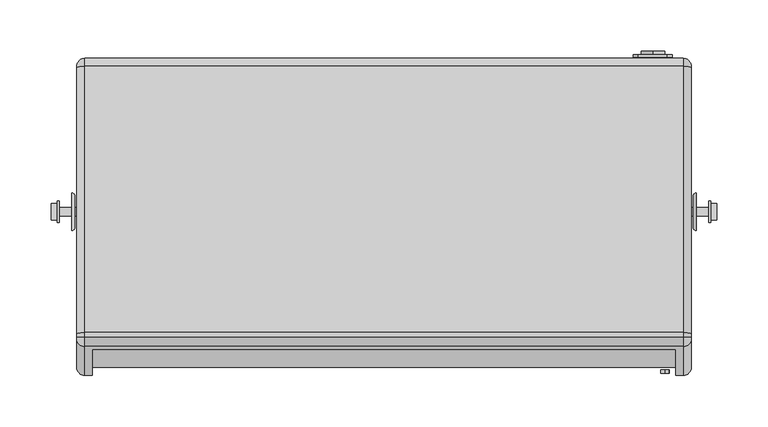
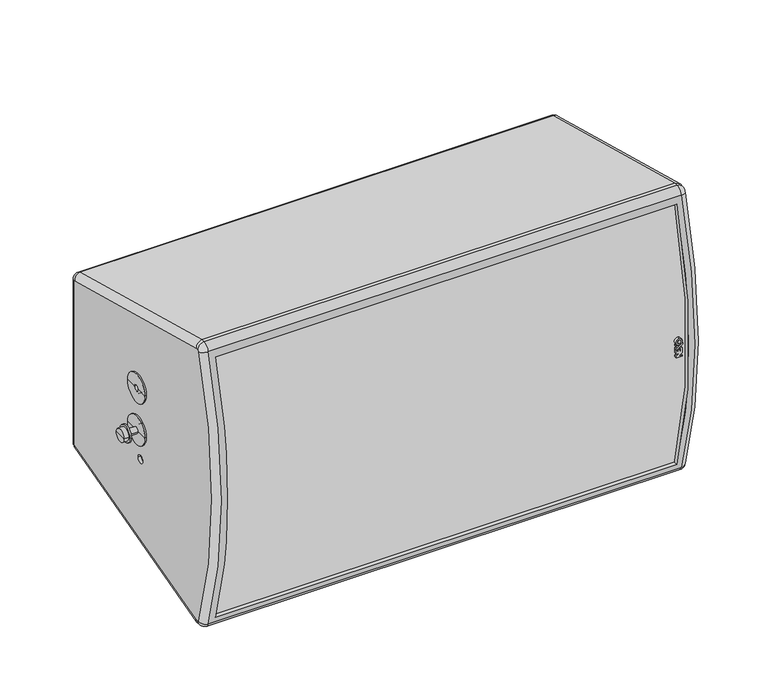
"""IFC4 building model written with IfcOpenShell, lengths in millimetres: proxy geometry, ePS12-HBRK600-CHM : ePS12-HBRK600-CHM."""

from ifc_helpers import new_model, si_unit, point, frame, frame_2d, origin, place, context, project, spatial, polyline, circle_curve, ellipse_curve, trimmed, segment, composite_curve, outline, extrude, source, transform, mapped, element, save
from ifc_brep_helpers import plane_surface, cylinder_surface, revolved_surface, advanced_brep


def generic_models_c9349fff(model_context):
    return source(origin(), model_context, "Body", "SolidModel", [
        extrude(outline(polyline([(-353.4376119, 270.5590531), (-353.4376119, 277.8388202), (-351.5452446, 277.8388202), (-351.5452446, 273.6734899), (-348.7701477, 277.8388202), (-341.919238, 277.8388202), (-340.6006657, 275.963849), (-341.6640428, 274.3643156), (-343.0335854, 276.2361557), (-346.0672147, 276.2361557), (-346.0672147, 274.9818684), (-343.7841019, 274.9818684), (-343.7841019, 273.3791381), (-346.0672147, 273.3791381), (-346.0672147, 272.1626349), (-343.66014, 272.1626349), (-343.66014, 271.3626349), (-344.1937988, 270.5599046), (-348.4621748, 270.5599046), (-348.4718664, 275.0099607), (-351.4111326, 270.5590531), (-353.4376119, 270.5590531)])), frame((0.0, -188.430519, 0.0), z_axis=(0.0, 1.0, 0.0), x_axis=(0.0, 0.0, 1.0)), (0.0, 0.0, 1.0), 3.5087945),
        extrude(outline(polyline([(-343.5524837, 270.5590531), (-338.0738645, 278.8), (-335.8806617, 278.8), (-341.3592809, 270.5590531), (-343.5524837, 270.5590531)])), frame((0.0, -188.430519, 0.0), z_axis=(0.0, 1.0, 0.0), x_axis=(0.0, 0.0, 1.0)), (0.0, 0.0, 1.0), 3.5087945),
        extrude(outline(polyline([(-336.8118496, 270.5590531), (-339.1386402, 270.5590531), (-339.8864345, 271.8270101), (-338.8022087, 273.457904), (-336.8118496, 270.5590531)])), frame((0.0, -188.430519, 0.0), z_axis=(0.0, 1.0, 0.0), x_axis=(0.0, 0.0, 1.0)), (0.0, 0.0, 1.0), 3.5087945),
        extrude(outline(composite_curve([segment(trimmed(circle_curve(frame_2d((-333.4262384, 274.2298911)), 3.9406238), [point((-337.3668623, 274.2298911))], [point((-329.4856146, 274.2298911))], False, "CARTESIAN"), True, "CONTINUOUS"), segment(trimmed(circle_curve(frame_2d((-333.4262384, 274.2298911)), 3.9406238), [point((-329.4856146, 274.2298911))], [point((-337.3668623, 274.2298911))], False, "CARTESIAN"), True, "CONTINUOUS")], self_intersect=False), holes=[composite_curve([segment(trimmed(circle_curve(frame_2d((-333.4262384, 274.2298911)), 2.0681078), [point((-335.4943462, 274.2298911))], [point((-331.3581307, 274.2298911))], True, "CARTESIAN"), True, "CONTINUOUS"), segment(trimmed(circle_curve(frame_2d((-333.4262384, 274.2298911)), 2.0681078), [point((-331.3581307, 274.2298911))], [point((-335.4943462, 274.2298911))], True, "CARTESIAN"), True, "CONTINUOUS")], self_intersect=False)]), frame((0.0, -188.430519, 0.0), z_axis=(0.0, 1.0, 0.0), x_axis=(0.0, 0.0, 1.0)), (0.0, 0.0, 1.0), 3.5087945),
        extrude(outline(composite_curve([segment(trimmed(circle_curve(frame_2d((-311.5012591, 262.5)), 11.4515227), [point((-300.0497365, 262.5))], [point((-322.9527818, 262.5))], False, "CARTESIAN"), True, "CONTINUOUS"), segment(trimmed(circle_curve(frame_2d((-311.5012591, 262.5)), 11.4515227), [point((-322.9527818, 262.5))], [point((-300.0497365, 262.5))], False, "CARTESIAN"), True, "CONTINUOUS")], self_intersect=False), holes=[composite_curve([segment(trimmed(circle_curve(frame_2d((-311.5012591, 262.5)), 5.0), [point((-306.5012591, 262.5))], [point((-316.5012591, 262.5))], True, "CARTESIAN"), True, "CONTINUOUS"), segment(trimmed(circle_curve(frame_2d((-311.5012591, 262.5)), 5.0), [point((-316.5012591, 262.5))], [point((-306.5012591, 262.5))], True, "CARTESIAN"), True, "CONTINUOUS")], self_intersect=False)]), frame((0.0, 123.0947354, 0.0), z_axis=(0.0, 1.0, 0.0), x_axis=(0.0, 0.0, 1.0)), (0.0, 0.0, 1.0), 3.4052646),
        extrude(outline(composite_curve([segment(trimmed(circle_curve(frame_2d((-371.5012591, 262.5)), 11.4515227), [point((-360.0497365, 262.5))], [point((-382.9527818, 262.5))], False, "CARTESIAN"), True, "CONTINUOUS"), segment(trimmed(circle_curve(frame_2d((-371.5012591, 262.5)), 11.4515227), [point((-382.9527818, 262.5))], [point((-360.0497365, 262.5))], False, "CARTESIAN"), True, "CONTINUOUS")], self_intersect=False), holes=[composite_curve([segment(trimmed(circle_curve(frame_2d((-371.5012591, 262.5)), 5.0), [point((-366.5012591, 262.5))], [point((-376.5012591, 262.5))], True, "CARTESIAN"), True, "CONTINUOUS"), segment(trimmed(circle_curve(frame_2d((-371.5012591, 262.5)), 5.0), [point((-376.5012591, 262.5))], [point((-366.5012591, 262.5))], True, "CARTESIAN"), True, "CONTINUOUS")], self_intersect=False)]), frame((0.0, 123.0947354, 0.0), z_axis=(0.0, 1.0, 0.0), x_axis=(0.0, 0.0, 1.0)), (0.0, 0.0, 1.0), 3.4052646),
        extrude(outline(composite_curve([segment(polyline([(-288.5012591, 243.5), (-394.5012591, 243.5)]), True, "CONTINUOUS"), segment(trimmed(circle_curve(frame_2d((-394.5012591, 248.5)), 5.0), [point((-394.5012591, 243.5))], [point((-399.5012591, 248.5))], False, "CARTESIAN"), True, "CONTINUOUS"), segment(polyline([(-399.5012591, 248.5), (-399.5012591, 276.5)]), True, "CONTINUOUS"), segment(trimmed(circle_curve(frame_2d((-394.5012591, 276.5)), 5.0), [point((-399.5012591, 276.5))], [point((-394.5012591, 281.5))], False, "CARTESIAN"), True, "CONTINUOUS"), segment(polyline([(-394.5012591, 281.5), (-288.5012591, 281.5)]), True, "CONTINUOUS"), segment(trimmed(circle_curve(frame_2d((-288.5012591, 276.5)), 5.0), [point((-288.5012591, 281.5))], [point((-283.5012591, 276.5))], False, "CARTESIAN"), True, "CONTINUOUS"), segment(polyline([(-283.5012591, 276.5), (-283.5012591, 248.5)]), True, "CONTINUOUS"), segment(trimmed(circle_curve(frame_2d((-288.5012591, 248.5)), 5.0), [point((-283.5012591, 248.5))], [point((-288.5012591, 243.5))], False, "CARTESIAN"), True, "CONTINUOUS")], self_intersect=False)), frame((0.0, 120.5947354, 0.0), z_axis=(0.0, 1.0, 0.0), x_axis=(0.0, 0.0, 1.0)), (0.0, 0.0, 1.0), 2.5),
        advanced_brep(
        [(-300.0, 109.9698959, -234.0530609), (-300.0, 111.4522578, -235.9849126), (-300.0, 111.4522578, -447.0176057), (-300.0, 109.9698959, -448.9494573), (-300.0, -149.6009622, -518.5012591), (-300.0, -152.8259262, -518.5012591), (-300.0, -154.7280348, -517.119307), (-300.0, -154.7280348, -165.8832113), (-300.0, -152.8259262, -164.5012591), (-300.0, -149.6009622, -164.5012591), (-300.0, -35.5, -341.5012591), (-300.0, -25.5, -341.5012591), (-300.0, -35.5, -381.5012591), (-300.0, -25.5, -381.5012591), (-300.0, -35.5, -301.5012591), (-300.0, -25.5, -301.5012591), (300.0, 111.4522578, -235.9849126), (300.0, 109.9698959, -234.0530609), (300.0, -149.6009622, -164.5012591), (300.0, -152.8259262, -164.5012591), (300.0, -154.7280348, -165.8832113), (300.0, -154.7280348, -517.119307), (300.0, -152.8259262, -518.5012591), (300.0, -149.6009622, -518.5012591), (300.0, 109.9698959, -448.9494573), (300.0, 111.4522578, -447.0176057), (300.0, -25.5, -341.5012591), (300.0, -35.5, -341.5012591), (300.0, -25.5, -381.5012591), (300.0, -35.5, -381.5012591), (300.0, -25.5, -301.5012591), (300.0, -35.5, -301.5012591), (-296.0, -25.5, -341.5012591), (-296.0, -35.5, -341.5012591), (-296.0, -25.5, -381.5012591), (-296.0, -35.5, -381.5012591), (-296.0, -25.5, -301.5012591), (-296.0, -35.5, -301.5012591), (-285.0, -164.8995103, -511.5012591), (-285.0, -159.7156738, -511.5012591), (-285.0, -159.7156738, -171.5012591), (-285.0, -164.8995103, -171.5012591), (285.0, -164.8995103, -171.5012591), (285.0, -159.7156738, -171.5012591), (285.0, -159.7156738, -511.5012591), (285.0, -164.8995103, -511.5012591), (296.0, -25.5, -341.5012591), (296.0, -35.5, -341.5012591), (296.0, -25.5, -381.5012591), (296.0, -35.5, -381.5012591), (296.0, -25.5, -301.5012591), (296.0, -35.5, -301.5012591), (0.0, 114.5, -370.8445414), (0.0, 114.5, -382.1578618), (0.0, 114.5, -300.8445414), (0.0, 114.5, -312.1578618), (-70.0, 114.5, -370.8445414), (-70.0, 114.5, -382.1578618), (0.0, 119.4522578, -382.1578618), (0.0, 119.4522578, -370.8445414), (0.0, 119.4522578, -312.1578618), (0.0, 119.4522578, -300.8445414), (-292.0, 119.4522578, -447.0176057), (-292.0, 119.4522578, -235.9849126), (292.0000078, 119.4522578, -235.9849126), (292.0, 119.4522578, -447.0176057), (-70.0, 119.4522578, -382.1578618), (-70.0, 119.4522578, -370.8445414), (-292.0, 112.0404482, -456.676864), (292.0, 112.0404482, -456.676864), (-292.0, -148.5477422, -526.5012591), (292.0, -148.5477422, -526.5012591), (-292.0, -152.8259262, -526.5012591), (292.0, -152.8259262, -526.5012591), (-292.0, -162.3364689, -163.4110201), (-292.0, -162.3364689, -519.5914982), (292.0000037, -162.3364689, -519.5914982), (292.0, -162.3364689, -163.4110201), (-292.0, -148.5477422, -156.5012591), (-292.0, -152.8259262, -156.5012591), (292.0, -152.8259262, -156.5012591), (292.0, -148.5477422, -156.5012591), (-292.0, 112.0404482, -226.3256543), (292.0, 112.0404482, -226.3256543)],
        [
            (0, 1, circle_curve(frame((-300.0, 109.4522578, -235.9849126), z_axis=(-1.0, 0.0, 0.0), x_axis=(0.0, 1.0, 0.0)), 2.0)),
            (1, 2),
            (2, 3, circle_curve(frame((-300.0, 109.4522578, -447.0176057), z_axis=(-1.0, 0.0, 0.0), x_axis=(0.0, 0.2588190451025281, -0.9659258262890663)), 2.0)),
            (3, 4),
            (4, 5),
            (5, 6, circle_curve(frame((-300.0, -152.8259262, -516.5012591), z_axis=(-1.0, 0.0, 0.0), x_axis=(0.0, -0.9510542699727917, -0.3090239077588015)), 2.0)),
            (6, 7, circle_curve(frame((-300.0, 385.7553714, -341.5012591), z_axis=(-1.0, 0.0, 0.0), x_axis=(0.0, -0.9510542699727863, 0.309023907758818)), 568.2992267)),
            (7, 8, circle_curve(frame((-300.0, -152.8259262, -166.5012591), z_axis=(-1.0, 0.0, 0.0), x_axis=(0.0, 0.0, 1.0)), 2.0)),
            (8, 9),
            (9, 0),
            (10, 11, circle_curve(frame((-300.0, -30.5, -341.5012591), z_axis=(1.0, 0.0, 0.0), x_axis=(0.0, -1.0, 0.0)), 5.0)),
            (11, 10, circle_curve(frame((-300.0, -30.5, -341.5012591), z_axis=(1.0, 0.0, 0.0), x_axis=(0.0, -1.0, 0.0)), 5.0)),
            (12, 13, circle_curve(frame((-300.0, -30.5, -381.5012591), z_axis=(1.0, 0.0, 0.0), x_axis=(0.0, -1.0, 0.0)), 5.0)),
            (13, 12, circle_curve(frame((-300.0, -30.5, -381.5012591), z_axis=(1.0, 0.0, 0.0), x_axis=(0.0, -1.0, 0.0)), 5.0)),
            (14, 15, circle_curve(frame((-300.0, -30.5, -301.5012591), z_axis=(1.0, 0.0, 0.0), x_axis=(0.0, -1.0, 0.0)), 5.0)),
            (15, 14, circle_curve(frame((-300.0, -30.5, -301.5012591), z_axis=(1.0, 0.0, 0.0), x_axis=(0.0, -1.0, 0.0)), 5.0)),
            (16, 17, circle_curve(frame((300.0, 109.4522578, -235.9849126), z_axis=(1.0, 0.0, 0.0), x_axis=(0.0, 1.0, 0.0)), 2.0)),
            (17, 18),
            (18, 19),
            (19, 20, circle_curve(frame((300.0, -152.8259262, -166.5012591), z_axis=(1.0, 0.0, 0.0), x_axis=(0.0, 0.0, 1.0)), 2.0)),
            (20, 21, circle_curve(frame((300.0, 385.7553714, -341.5012591), z_axis=(1.0, 0.0, 0.0), x_axis=(0.0, -0.9510542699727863, 0.309023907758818)), 568.2992267)),
            (21, 22, circle_curve(frame((300.0, -152.8259262, -516.5012591), z_axis=(1.0, 0.0, 0.0), x_axis=(0.0, -0.9510542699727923, -0.3090239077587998)), 2.0)),
            (22, 23),
            (23, 24),
            (24, 25, circle_curve(frame((300.0, 109.4522578, -447.0176057), z_axis=(1.0, 0.0, 0.0), x_axis=(0.0, 0.258819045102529, -0.9659258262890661)), 2.0)),
            (25, 16),
            (26, 27, circle_curve(frame((300.0, -30.5, -341.5012591), z_axis=(-1.0, 0.0, 0.0), x_axis=(0.0, -1.0, 0.0)), 5.0)),
            (27, 26, circle_curve(frame((300.0, -30.5, -341.5012591), z_axis=(-1.0, 0.0, 0.0), x_axis=(0.0, -1.0, 0.0)), 5.0)),
            (28, 29, circle_curve(frame((300.0, -30.5, -381.5012591), z_axis=(-1.0, 0.0, 0.0), x_axis=(0.0, -1.0, 0.0)), 5.0)),
            (29, 28, circle_curve(frame((300.0, -30.5, -381.5012591), z_axis=(-1.0, 0.0, 0.0), x_axis=(0.0, -1.0, 0.0)), 5.0)),
            (30, 31, circle_curve(frame((300.0, -30.5, -301.5012591), z_axis=(-1.0, 0.0, 0.0), x_axis=(0.0, -1.0, 0.0)), 5.0)),
            (31, 30, circle_curve(frame((300.0, -30.5, -301.5012591), z_axis=(-1.0, 0.0, 0.0), x_axis=(0.0, -1.0, 0.0)), 5.0)),
            (32, 33, circle_curve(frame((-296.0, -30.5, -341.5012591), z_axis=(-1.0, 0.0, 0.0), x_axis=(0.0, -1.0, 0.0)), 5.0)),
            (33, 32, circle_curve(frame((-296.0, -30.5, -341.5012591), z_axis=(-1.0, 0.0, 0.0), x_axis=(0.0, -1.0, 0.0)), 5.0)),
            (34, 35, circle_curve(frame((-296.0, -30.5, -381.5012591), z_axis=(-1.0, 0.0, 0.0), x_axis=(0.0, -1.0, 0.0)), 5.0)),
            (35, 34, circle_curve(frame((-296.0, -30.5, -381.5012591), z_axis=(-1.0, 0.0, 0.0), x_axis=(0.0, -1.0, 0.0)), 5.0)),
            (36, 37, circle_curve(frame((-296.0, -30.5, -301.5012591), z_axis=(-1.0, 0.0, 0.0), x_axis=(0.0, -1.0, 0.0)), 5.0)),
            (37, 36, circle_curve(frame((-296.0, -30.5, -301.5012591), z_axis=(-1.0, 0.0, 0.0), x_axis=(0.0, -1.0, 0.0)), 5.0)),
            (32, 11),
            (10, 33),
            (34, 13),
            (12, 35),
            (36, 15),
            (14, 37),
            (38, 39),
            (39, 40, circle_curve(frame((-285.0, 392.2564106, -341.5012591), z_axis=(-1.0, 0.0, 0.0), x_axis=(0.0, 0.0, 1.0)), 577.5579469)),
            (40, 41),
            (41, 38, circle_curve(frame((-285.0, 385.7553714, -341.5012591), z_axis=(1.0, 0.0, 0.0), x_axis=(0.0, 0.0, 1.0)), 576.2992267)),
            (42, 43),
            (43, 44, circle_curve(frame((285.0, 392.2564106, -341.5012591), z_axis=(1.0, 0.0, 0.0), x_axis=(0.0, 0.0, 1.0)), 577.5579469)),
            (44, 45),
            (45, 42, circle_curve(frame((285.0, 385.7553714, -341.5012591), z_axis=(-1.0, 0.0, 0.0), x_axis=(0.0, 0.0, 1.0)), 576.2992267)),
            (46, 47, circle_curve(frame((296.0, -30.5, -341.5012591), z_axis=(1.0, 0.0, 0.0), x_axis=(0.0, -1.0, 0.0)), 5.0)),
            (47, 46, circle_curve(frame((296.0, -30.5, -341.5012591), z_axis=(1.0, 0.0, 0.0), x_axis=(0.0, -1.0, 0.0)), 5.0)),
            (48, 49, circle_curve(frame((296.0, -30.5, -381.5012591), z_axis=(1.0, 0.0, 0.0), x_axis=(0.0, -1.0, 0.0)), 5.0)),
            (49, 48, circle_curve(frame((296.0, -30.5, -381.5012591), z_axis=(1.0, 0.0, 0.0), x_axis=(0.0, -1.0, 0.0)), 5.0)),
            (50, 51, circle_curve(frame((296.0, -30.5, -301.5012591), z_axis=(1.0, 0.0, 0.0), x_axis=(0.0, -1.0, 0.0)), 5.0)),
            (51, 50, circle_curve(frame((296.0, -30.5, -301.5012591), z_axis=(1.0, 0.0, 0.0), x_axis=(0.0, -1.0, 0.0)), 5.0)),
            (47, 27),
            (26, 46),
            (49, 29),
            (28, 48),
            (51, 31),
            (30, 50),
            (52, 53, circle_curve(frame((0.0, 114.5, -376.5012016), z_axis=(0.0, 1.0, 0.0), x_axis=(0.0, 0.0, -1.0)), 5.6566602)),
            (53, 52, circle_curve(frame((0.0, 114.5, -376.5012016), z_axis=(0.0, 1.0, 0.0), x_axis=(0.0, 0.0, -1.0)), 5.6566602)),
            (54, 55, circle_curve(frame((0.0, 114.5, -306.5012016), z_axis=(0.0, 1.0, 0.0), x_axis=(0.0, 0.0, -1.0)), 5.6566602)),
            (55, 54, circle_curve(frame((0.0, 114.5, -306.5012016), z_axis=(0.0, 1.0, 0.0), x_axis=(0.0, 0.0, -1.0)), 5.6566602)),
            (56, 57, circle_curve(frame((-70.0, 114.5, -376.5012016), z_axis=(0.0, 1.0, 0.0), x_axis=(0.0, 0.0, -1.0)), 5.6566602)),
            (57, 56, circle_curve(frame((-70.0, 114.5, -376.5012016), z_axis=(0.0, 1.0, 0.0), x_axis=(0.0, 0.0, -1.0)), 5.6566602)),
            (53, 58),
            (58, 59, circle_curve(frame((0.0, 119.4522578, -376.5012016), z_axis=(0.0, 1.0, 0.0), x_axis=(0.0, 0.0, -1.0)), 5.6566602)),
            (59, 52),
            (59, 58, circle_curve(frame((0.0, 119.4522578, -376.5012016), z_axis=(0.0, 1.0, 0.0), x_axis=(0.0, 0.0, -1.0)), 5.6566602)),
            (55, 60),
            (60, 61, circle_curve(frame((0.0, 119.4522578, -306.5012016), z_axis=(0.0, 1.0, 0.0), x_axis=(0.0, 0.0, -1.0)), 5.6566602)),
            (61, 54),
            (61, 60, circle_curve(frame((0.0, 119.4522578, -306.5012016), z_axis=(0.0, 1.0, 0.0), x_axis=(0.0, 0.0, -1.0)), 5.6566602)),
            (62, 63),
            (63, 64),
            (64, 65),
            (65, 62),
            (66, 67, circle_curve(frame((-70.0, 119.4522578, -376.5012016), z_axis=(0.0, -1.0, 0.0), x_axis=(0.0, 0.0, -1.0)), 5.6566602)),
            (67, 66, circle_curve(frame((-70.0, 119.4522578, -376.5012016), z_axis=(0.0, -1.0, 0.0), x_axis=(0.0, 0.0, -1.0)), 5.6566602)),
            (68, 62, circle_curve(frame((-292.0, 109.4522578, -447.0176057), z_axis=(1.0, 0.0, 0.0), x_axis=(0.0, 0.0, 1.0)), 10.0)),
            (65, 69, circle_curve(frame((292.0, 109.4522578, -447.0176057), z_axis=(-1.0, 0.0, 0.0), x_axis=(0.0, 0.0, 1.0)), 10.0)),
            (69, 68),
            (70, 68),
            (69, 71),
            (71, 70),
            (72, 70),
            (71, 73),
            (73, 72),
            (74, 75, circle_curve(frame((-292.0, 385.7553714, -341.5012591), z_axis=(1.0, 0.0, 0.0), x_axis=(0.0, 0.0, 1.0)), 576.2992267)),
            (75, 76),
            (76, 77, circle_curve(frame((292.0, 385.7553714, -341.5012591), z_axis=(-1.0, 0.0, 0.0), x_axis=(0.0, 0.0, 1.0)), 576.2992267)),
            (77, 74),
            (41, 42),
            (45, 38),
            (78, 79),
            (79, 80),
            (80, 81),
            (81, 78),
            (82, 78),
            (81, 83),
            (83, 82),
            (63, 82, circle_curve(frame((-292.0, 109.4522578, -235.9849126), z_axis=(1.0, 0.0, 0.0), x_axis=(0.0, 0.0, 1.0)), 10.0)),
            (83, 64, circle_curve(frame((292.0, 109.4522578, -235.9849126), z_axis=(-1.0, 0.0, 0.0), x_axis=(0.0, 0.0, 1.0)), 10.0)),
            (56, 67),
            (66, 57),
            (40, 43),
            (39, 44),
            (75, 72, circle_curve(frame((-292.0, -152.8259262, -516.5012591), z_axis=(1.0, 0.0, 0.0), x_axis=(0.0, 0.0, 1.0)), 10.0)),
            (73, 76, circle_curve(frame((292.0, -152.8259262, -516.5012591), z_axis=(-1.0, 0.0, 0.0), x_axis=(0.0, 0.0, 1.0)), 10.0)),
            (79, 74, circle_curve(frame((-292.0, -152.8259262, -166.5012591), z_axis=(1.0, 0.0, 0.0), x_axis=(0.0, 0.0, 1.0)), 10.0)),
            (77, 80, circle_curve(frame((292.0, -152.8259262, -166.5012591), z_axis=(-1.0, 0.0, 0.0), x_axis=(0.0, 0.0, 1.0)), 10.0)),
            (0, 82, circle_curve(frame((-292.0, 109.9698959, -234.0530609), z_axis=(0.0, 0.9659258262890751, -0.2588190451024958), x_axis=(0.0, 0.2588190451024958, 0.9659258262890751)), 8.0)),
            (63, 1, circle_curve(frame((-292.0, 111.4522578, -235.9849126), z_axis=(0.0, 0.0, 1.0), x_axis=(0.0, 1.0, 0.0)), 8.0)),
            (9, 78, ellipse_curve(frame((-292.0, -149.6009622, -164.5012591), z_axis=(0.0, 0.9914448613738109, -0.13052619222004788), x_axis=(0.0, 0.1305261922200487, 0.9914448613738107)), 8.0690317, 8.0)),
            (8, 79, circle_curve(frame((-292.0, -152.8259262, -164.5012591), z_axis=(0.0, 1.0, 0.0), x_axis=(0.0, 0.0, 1.0)), 8.0)),
            (7, 74, circle_curve(frame((-292.0, -154.7280348, -165.8832113), z_axis=(0.0, 0.3090239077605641, 0.951054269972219), x_axis=(0.0, -0.951054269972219, 0.3090239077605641)), 8.0)),
            (6, 75, circle_curve(frame((-292.0, -154.7280348, -517.119307), z_axis=(0.0, -0.3090239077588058, 0.9510542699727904), x_axis=(0.0, -0.9510542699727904, -0.3090239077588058)), 8.0)),
            (5, 72, circle_curve(frame((-292.0, -152.8259262, -518.5012591), z_axis=(0.0, -1.0, 0.0), x_axis=(0.0, 0.0, -1.0)), 8.0)),
            (4, 70, ellipse_curve(frame((-292.0, -149.6009622, -518.5012591), z_axis=(0.0, -0.9914448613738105, -0.13052619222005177), x_axis=(0.0, 0.13052619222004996, -0.9914448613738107)), 8.0690317, 8.0)),
            (3, 68, circle_curve(frame((-292.0, 109.9698959, -448.9494573), z_axis=(0.0, -0.9659258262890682, -0.2588190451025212), x_axis=(0.0, 0.2588190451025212, -0.9659258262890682)), 8.0)),
            (2, 62, circle_curve(frame((-292.0, 111.4522578, -447.0176057), z_axis=(0.0, 0.0, -1.0), x_axis=(0.0, 1.0, 0.0)), 8.0)),
            (83, 17, circle_curve(frame((292.0, 109.9698959, -234.0530609), z_axis=(0.0, 0.9659258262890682, -0.25881904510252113), x_axis=(0.0, 0.25881904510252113, 0.9659258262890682)), 8.0)),
            (16, 64, circle_curve(frame((292.0, 111.4522578, -235.9849126), z_axis=(0.0, 0.0, 1.0), x_axis=(0.0, 1.0, 0.0)), 8.0)),
            (81, 18, ellipse_curve(frame((292.0, -149.6009622, -164.5012591), z_axis=(0.0, 0.9914448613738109, -0.1305261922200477), x_axis=(0.0, 0.13052619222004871, 0.9914448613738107)), 8.0690317, 8.0)),
            (80, 19, circle_curve(frame((292.0, -152.8259262, -164.5012591), z_axis=(0.0, 1.0, 0.0), x_axis=(0.0, 0.0, 1.0)), 8.0)),
            (77, 20, circle_curve(frame((292.0, -154.7280348, -165.8832113), z_axis=(0.0, 0.30902390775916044, 0.951054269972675), x_axis=(0.0, -0.951054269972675, 0.30902390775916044)), 8.0)),
            (76, 21, circle_curve(frame((292.0, -154.7280348, -517.119307), z_axis=(0.0, -0.3090239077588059, 0.9510542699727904), x_axis=(0.0, -0.9510542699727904, -0.3090239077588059)), 8.0)),
            (73, 22, circle_curve(frame((292.0, -152.8259262, -518.5012591), z_axis=(0.0, -0.9999999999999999, 0.0), x_axis=(0.0, 0.0, -0.9999999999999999)), 8.0)),
            (71, 23, ellipse_curve(frame((292.0, -149.6009622, -518.5012591), z_axis=(0.0, -0.9914448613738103, -0.13052619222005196), x_axis=(0.0, 0.13052619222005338, -0.9914448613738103)), 8.0690317, 8.0)),
            (69, 24, circle_curve(frame((292.0, 109.9698959, -448.9494573), z_axis=(0.0, -0.9659258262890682, -0.2588190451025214), x_axis=(0.0, 0.2588190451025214, -0.9659258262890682)), 8.0)),
            (65, 25, circle_curve(frame((292.0, 111.4522578, -447.0176057), z_axis=(0.0, 0.0, -1.0), x_axis=(0.0, 1.0, 0.0)), 8.0)),
        ],
        [
            plane_surface(frame((-300.0, 119.4522578, -453.1736814), z_axis=(-1.0, 0.0, 0.0), x_axis=(0.0, 0.0, -1.0))),
            plane_surface(frame((300.0, 119.4522578, -453.1736814), z_axis=(1.0, 0.0, 0.0), x_axis=(0.0, 0.0, 1.0))),
            plane_surface(frame((-296.0, -35.5, -341.5012591), z_axis=(-1.0, 0.0, 0.0), x_axis=(0.0, 0.0, -1.0))),
            revolved_surface(polyline([(-300.0, -35.5, -341.5012591), (-296.0, -35.5, -341.5012591)]), (-296.0, -30.5, -341.5012591), (-1.0, 0.0, 0.0)),
            revolved_surface(polyline([(-300.0, -35.5, -381.5012591), (-296.0, -35.5, -381.5012591)]), (-300.0, -30.5, -381.5012591), (-1.0, 0.0, 0.0)),
            revolved_surface(polyline([(-300.0, -35.5, -301.5012591), (-296.0, -35.5, -301.5012591)]), (-300.0, -30.5, -301.5012591), (-1.0, 0.0, 0.0)),
            plane_surface(frame((-285.0, -164.8995103, -171.5012591), z_axis=(1.0, 0.0, 0.0), x_axis=(0.0, 1.0, 0.0))),
            plane_surface(frame((285.0, -164.8995103, -171.5012591), z_axis=(-1.0, 0.0, 0.0), x_axis=(0.0, -1.0, 0.0))),
            plane_surface(frame((296.0, -35.5, -341.5012591), z_axis=(1.0, 0.0, 0.0), x_axis=(0.0, 0.0, 1.0))),
            revolved_surface(polyline([(296.0, -35.5, -341.5012591), (300.0, -35.5, -341.5012591)]), (304.0, -30.5, -341.5012591), (-1.0, 0.0, 0.0)),
            revolved_surface(polyline([(296.0, -35.5, -381.5012591), (300.0, -35.5, -381.5012591)]), (300.0, -30.5, -381.5012591), (-1.0, 0.0, 0.0)),
            revolved_surface(polyline([(296.0, -35.5, -301.5012591), (300.0, -35.5, -301.5012591)]), (300.0, -30.5, -301.5012591), (-1.0, 0.0, 0.0)),
            plane_surface(frame((0.0, 114.5, -382.1578618), z_axis=(0.0, 1.0, 0.0), x_axis=(1.0, 0.0, 0.0))),
            revolved_surface(polyline([(0.0, 119.4522578, -382.1578618), (0.0, 114.5, -382.1578618)]), (0.0, 114.5, -376.5012016), (0.0, 1.0, 0.0)),
            revolved_surface(polyline([(0.0, 119.4522578, -312.1578618), (0.0, 114.5, -312.1578618)]), (0.0, 126.5, -306.5012016), (0.0, 1.0, 0.0)),
            plane_surface(frame((-300.0, 119.4522578, -235.9849126), z_axis=(0.0, 1.0, 0.0), x_axis=(1.0, 0.0, 0.0))),
            cylinder_surface(frame((300.0, 109.4522578, -447.0176057), z_axis=(-1.0, 0.0, 0.0), x_axis=(0.0, 0.0, 1.0)), 10.0),
            plane_surface(frame((-300.0, 112.0404482, -456.676864), z_axis=(0.0, 0.2588190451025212, -0.9659258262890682), x_axis=(1.0, 0.0, 0.0))),
            plane_surface(frame((-300.0, -148.5477422, -526.5012591), z_axis=(0.0, 0.0, -1.0), x_axis=(1.0, 0.0, 0.0))),
            cylinder_surface(frame((300.0, 385.7553714, -341.5012591), z_axis=(-1.0, 0.0, 0.0), x_axis=(0.0, 0.0, 1.0)), 576.2992267),
            plane_surface(frame((-300.0, -152.8259262, -156.5012591), z_axis=(0.0, 0.0, 1.0), x_axis=(1.0, 0.0, 0.0))),
            plane_surface(frame((-300.0, -148.5477422, -156.5012591), z_axis=(0.0, 0.2588190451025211, 0.9659258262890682), x_axis=(1.0, 0.0, 0.0))),
            cylinder_surface(frame((300.0, 109.4522578, -235.9849126), z_axis=(-1.0, 0.0, 0.0), x_axis=(0.0, 0.0, 1.0)), 10.0),
            revolved_surface(polyline([(-70.0, 119.4522578, -382.1578618), (-70.0, 114.5, -382.1578618)]), (-70.0, 126.5, -376.5012016), (0.0, 1.0, 0.0)),
            plane_surface(frame((-285.0, -164.8995103, -171.5012591), z_axis=(0.0, 0.0, -1.0), x_axis=(1.0, 0.0, 0.0))),
            cylinder_surface(frame((285.0, 392.2564106, -341.5012591), z_axis=(1.0, 0.0, 0.0), x_axis=(0.0, 0.0, 1.0)), 577.5579469),
            plane_surface(frame((-285.0, -159.7156738, -511.5012591), z_axis=(0.0, 0.0, 1.0), x_axis=(1.0, 0.0, 0.0))),
            cylinder_surface(frame((300.0, -152.8259262, -516.5012591), z_axis=(-1.0, 0.0, 0.0), x_axis=(0.0, 0.0, 1.0)), 10.0),
            cylinder_surface(frame((300.0, -152.8259262, -166.5012591), z_axis=(-1.0, 0.0, 0.0), x_axis=(0.0, 0.0, 1.0)), 10.0),
            revolved_surface(trimmed(ellipse_curve(frame((-292.0, 111.4522578, -235.9849126), z_axis=(0.0, 0.0, -1.0), x_axis=(0.0, 1.0, 0.0)), 8.0, 8.0), [point((-300.0, 111.4522578, -235.9849126))], [point((-292.0, 119.4522578, -235.9849126))], True, "CARTESIAN"), (-300.0, 109.4522578, -235.9849126), (1.0, 0.0, 0.0)),
            cylinder_surface(frame((-292.0, 109.9698959, -234.0530609), z_axis=(0.0, -0.9659258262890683, 0.25881904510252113), x_axis=(0.0, 0.25881904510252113, 0.9659258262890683)), 8.0),
            cylinder_surface(frame((-292.0, -148.5477422, -164.5012591), z_axis=(0.0, -1.0, 0.0), x_axis=(0.0, 0.0, 1.0)), 8.0),
            revolved_surface(trimmed(ellipse_curve(frame((-292.0, -152.8259262, -164.5012591), z_axis=(0.0, 1.0, 0.0), x_axis=(0.0, 0.0, 1.0)), 8.0, 8.0), [point((-300.0, -152.8259262, -164.5012591))], [point((-292.0, -152.8259262, -156.5012591))], True, "CARTESIAN"), (-300.0, -152.8259262, -166.5012591), (1.0, 0.0, 0.0)),
            revolved_surface(trimmed(ellipse_curve(frame((-292.0, -154.7280348, -165.8832113), z_axis=(0.0, 0.3090239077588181, 0.9510542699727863), x_axis=(0.0, -0.9510542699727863, 0.3090239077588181)), 8.0, 8.0), [point((-300.0, -154.7280348, -165.8832113))], [point((-292.0, -162.3364689, -163.4110201))], True, "CARTESIAN"), (-300.0, 385.7553714, -341.5012591), (1.0, 0.0, 0.0)),
            revolved_surface(trimmed(ellipse_curve(frame((-292.0, -154.7280348, -517.119307), z_axis=(0.0, -0.3090239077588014, 0.9510542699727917), x_axis=(0.0, -0.9510542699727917, -0.3090239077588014)), 8.0, 8.0), [point((-300.0, -154.7280348, -517.119307))], [point((-292.0, -162.3364689, -519.5914982))], True, "CARTESIAN"), (-300.0, -152.8259262, -516.5012591), (1.0, 0.0, 0.0)),
            cylinder_surface(frame((-292.0, -152.8259262, -518.5012591), z_axis=(0.0, 1.0, 0.0), x_axis=(0.0, 0.0, -1.0)), 8.0),
            cylinder_surface(frame((-292.0, -150.6182946, -518.7738525), z_axis=(0.0, 0.9659258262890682, 0.2588190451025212), x_axis=(0.0, 0.2588190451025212, -0.9659258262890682)), 8.0),
            revolved_surface(trimmed(ellipse_curve(frame((-292.0, 109.9698959, -448.9494573), z_axis=(0.0, -0.9659258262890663, -0.25881904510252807), x_axis=(0.0, 0.25881904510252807, -0.9659258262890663)), 8.0, 8.0), [point((-300.0, 109.9698959, -448.9494573))], [point((-292.0, 112.0404482, -456.676864))], True, "CARTESIAN"), (-300.0, 109.4522578, -447.0176057), (1.0, 0.0, 0.0)),
            cylinder_surface(frame((-292.0, 111.4522578, -447.0176057), z_axis=(0.0, 0.0, 1.0), x_axis=(0.0, 1.0, 0.0)), 8.0),
            revolved_surface(trimmed(ellipse_curve(frame((292.0, 111.4522578, -235.9849126), z_axis=(0.0, 0.0, -1.0), x_axis=(0.0, 1.0, 0.0)), 8.0, 8.0), [point((292.0, 119.4522578, -235.9849126))], [point((300.0, 111.4522578, -235.9849126))], True, "CARTESIAN"), (300.0, 109.4522578, -235.9849126), (1.0, 0.0, 0.0)),
            cylinder_surface(frame((292.0, 109.9698959, -234.0530609), z_axis=(0.0, -0.9659258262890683, 0.2588190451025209), x_axis=(0.0, 0.2588190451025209, 0.9659258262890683)), 8.0),
            cylinder_surface(frame((292.0, -148.5477422, -164.5012591), z_axis=(0.0, -1.0, 0.0), x_axis=(0.0, 0.0, 1.0)), 8.0),
            revolved_surface(trimmed(ellipse_curve(frame((292.0, -152.8259262, -164.5012591), z_axis=(0.0, 1.0, 0.0), x_axis=(0.0, 0.0, 1.0)), 8.0, 8.0), [point((292.0, -152.8259262, -156.5012591))], [point((300.0, -152.8259262, -164.5012591))], True, "CARTESIAN"), (300.0, -152.8259262, -166.5012591), (1.0, 0.0, 0.0)),
            revolved_surface(trimmed(ellipse_curve(frame((292.0, -154.7280348, -165.8832113), z_axis=(0.0, 0.3090239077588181, 0.9510542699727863), x_axis=(0.0, -0.9510542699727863, 0.3090239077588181)), 8.0, 8.0), [point((292.0, -162.3364689, -163.4110201))], [point((300.0, -154.7280348, -165.8832113))], True, "CARTESIAN"), (300.0, 385.7553714, -341.5012591), (1.0, 0.0, 0.0)),
            revolved_surface(trimmed(ellipse_curve(frame((292.0, -154.7280348, -517.119307), z_axis=(0.0, -0.30902390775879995, 0.9510542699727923), x_axis=(0.0, -0.9510542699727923, -0.30902390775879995)), 8.0, 8.0), [point((292.0, -162.3364689, -519.5914982))], [point((300.0, -154.7280348, -517.119307))], True, "CARTESIAN"), (300.0, -152.8259262, -516.5012591), (1.0, 0.0, 0.0)),
            cylinder_surface(frame((292.0, -152.8259262, -518.5012591), z_axis=(0.0, 1.0, 0.0), x_axis=(0.0, 0.0, -1.0)), 8.0),
            cylinder_surface(frame((292.0, -150.6182946, -518.7738525), z_axis=(0.0, 0.9659258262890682, 0.2588190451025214), x_axis=(0.0, 0.2588190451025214, -0.9659258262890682)), 8.0),
            revolved_surface(trimmed(ellipse_curve(frame((292.0, 109.9698959, -448.9494573), z_axis=(0.0, -0.9659258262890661, -0.2588190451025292), x_axis=(0.0, 0.2588190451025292, -0.9659258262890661)), 8.0, 8.0), [point((292.0, 112.0404482, -456.676864))], [point((300.0, 109.9698959, -448.9494573))], True, "CARTESIAN"), (300.0, 109.4522578, -447.0176057), (1.0, 0.0, 0.0)),
            cylinder_surface(frame((292.0, 111.4522578, -447.0176057), z_axis=(0.0, 0.0, 1.0), x_axis=(0.0, 1.0, 0.0)), 8.0),
        ],
        [
            (0, [[1, 2, 3, 4, 5, 6, 7, 8, 9, 10], [11, 12], [13, 14], [15, 16]]),
            (1, [[17, 18, 19, 20, 21, 22, 23, 24, 25, 26], [27, 28], [29, 30], [31, 32]]),
            (2, [[33, 34]]),
            (2, [[35, 36]]),
            (2, [[37, 38]]),
            (3, [[-33, 39, -11, 40]]),
            (3, [[-34, -40, -12, -39]]),
            (4, [[-35, 41, -13, 42]]),
            (4, [[-36, -42, -14, -41]]),
            (5, [[-37, 43, -15, 44]]),
            (5, [[-38, -44, -16, -43]]),
            (6, [[45, 46, 47, 48]]),
            (7, [[49, 50, 51, 52]]),
            (8, [[53, 54]]),
            (8, [[55, 56]]),
            (8, [[57, 58]]),
            (9, [[-54, 59, -27, 60]]),
            (9, [[-53, -60, -28, -59]]),
            (10, [[-56, 61, -29, 62]]),
            (10, [[-55, -62, -30, -61]]),
            (11, [[-58, 63, -31, 64]]),
            (11, [[-57, -64, -32, -63]]),
            (12, [[65, 66]]),
            (12, [[67, 68]]),
            (12, [[69, 70]]),
            (13, [[-66, 71, 72, 73]]),
            (13, [[-65, -73, 74, -71]]),
            (14, [[-68, 75, 76, 77]]),
            (14, [[-67, -77, 78, -75]]),
            (15, [[79, 80, 81, 82], [-72, -74], [-76, -78], [83, 84]]),
            (16, [[85, -82, 86, 87]]),
            (17, [[88, -87, 89, 90]]),
            (18, [[91, -90, 92, 93]]),
            (19, [[94, 95, 96, 97], [-48, 98, -52, 99]]),
            (20, [[100, 101, 102, 103]]),
            (21, [[104, -103, 105, 106]]),
            (22, [[107, -106, 108, -80]]),
            (23, [[-69, 109, -83, 110]]),
            (23, [[-70, -110, -84, -109]]),
            (24, [[-47, 111, -49, -98]]),
            (25, [[-46, 112, -50, -111]]),
            (26, [[-45, -99, -51, -112]]),
            (27, [[113, -93, 114, -95]]),
            (28, [[115, -97, 116, -101]]),
            (29, [[117, -107, 118, -1]]),
            (30, [[-117, -10, 119, -104]]),
            (31, [[-119, -9, 120, -100]]),
            (32, [[-120, -8, 121, -115]]),
            (33, [[-121, -7, 122, -94]]),
            (34, [[-122, -6, 123, -113]]),
            (35, [[-123, -5, 124, -91]]),
            (36, [[-124, -4, 125, -88]]),
            (37, [[-125, -3, 126, -85]]),
            (38, [[-118, -79, -126, -2]]),
            (39, [[127, -17, 128, -108]]),
            (40, [[-127, -105, 129, -18]]),
            (41, [[-129, -102, 130, -19]]),
            (42, [[-130, -116, 131, -20]]),
            (43, [[-131, -96, 132, -21]]),
            (44, [[-132, -114, 133, -22]]),
            (45, [[-133, -92, 134, -23]]),
            (46, [[-134, -89, 135, -24]]),
            (47, [[-135, -86, 136, -25]]),
            (48, [[-128, -26, -136, -81]]),
        ],
    ),
        advanced_brep(
        [(305.0, -26.527433, -286.5012591), (305.0, -34.472567, -286.5012591), (305.0, -48.942415, -286.5012591), (305.0, -12.057585, -286.5012591), (302.0, -45.942415, -286.5012591), (302.0, -15.057585, -286.5012591), (302.0, -34.472567, -286.5012591), (302.0, -26.527433, -286.5012591)],
        [
            (0, 1, circle_curve(frame((305.0, -30.5, -286.5012591), z_axis=(-1.0, 0.0, 0.0), x_axis=(0.0, -1.0, 0.0)), 3.972567)),
            (1, 2),
            (2, 3, circle_curve(frame((305.0, -30.5, -286.5012591), z_axis=(1.0, 0.0, 0.0), x_axis=(0.0, -1.0, 0.0)), 18.442415)),
            (3, 0),
            (1, 0, circle_curve(frame((305.0, -30.5, -286.5012591), z_axis=(-1.0, 0.0, 0.0), x_axis=(0.0, -1.0, 0.0)), 3.972567)),
            (3, 2, circle_curve(frame((305.0, -30.5, -286.5012591), z_axis=(1.0, 0.0, 0.0), x_axis=(0.0, -1.0, 0.0)), 18.442415)),
            (2, 4, circle_curve(frame((305.0, -45.942415, -286.5012591), z_axis=(0.0, 0.0, -1.0), x_axis=(-1.0, 0.0, 0.0)), 3.0)),
            (4, 5, circle_curve(frame((302.0, -30.5, -286.5012591), z_axis=(1.0, 0.0, 0.0), x_axis=(0.0, -1.0, 0.0)), 15.442415)),
            (5, 3, circle_curve(frame((305.0, -15.057585, -286.5012591), z_axis=(0.0, 0.0, -1.0), x_axis=(-1.0, 0.0, 0.0)), 3.0)),
            (5, 4, circle_curve(frame((302.0, -30.5, -286.5012591), z_axis=(1.0, 0.0, 0.0), x_axis=(0.0, -1.0, 0.0)), 15.442415)),
            (4, 6),
            (6, 7, circle_curve(frame((302.0, -30.5, -286.5012591), z_axis=(1.0, 0.0, 0.0), x_axis=(0.0, -1.0, 0.0)), 3.972567)),
            (7, 5),
            (7, 6, circle_curve(frame((302.0, -30.5, -286.5012591), z_axis=(1.0, 0.0, 0.0), x_axis=(0.0, -1.0, 0.0)), 3.972567)),
            (6, 1),
            (0, 7),
        ],
        [
            plane_surface(frame((305.0, -30.5, -286.5012591), z_axis=(1.0, 0.0, 0.0), x_axis=(0.0, -1.0, 0.0))),
            revolved_surface(trimmed(ellipse_curve(frame((305.0, -45.942415, -286.5012591), z_axis=(0.0, 0.0, 1.0), x_axis=(-1.0, 0.0, 0.0)), 3.0, 3.0), [point((302.0, -45.942415, -286.5012591))], [point((305.0, -48.942415, -286.5012591))], True, "CARTESIAN"), (292.2578639, -30.5, -286.5012591), (1.0, 0.0, 0.0)),
            plane_surface(frame((302.0, -30.5, -286.5012591), z_axis=(-1.0, 0.0, 0.0), x_axis=(0.0, -1.0, 0.0))),
            revolved_surface(polyline([(305.0, -34.472567, -286.5012591), (302.0, -34.472567, -286.5012591)]), (292.2578639, -30.5, -286.5012591), (1.0, 0.0, 0.0)),
        ],
        [
            (0, [[1, 2, 3, 4]]),
            (0, [[5, -4, 6, -2]]),
            (1, [[-3, 7, 8, 9]]),
            (1, [[-6, -9, 10, -7]]),
            (2, [[-8, 11, 12, 13]]),
            (2, [[-10, -13, 14, -11]]),
            (3, [[-12, 15, -1, 16]]),
            (3, [[-14, -16, -5, -15]]),
        ],
    ),
        advanced_brep(
        [(-305.0, -12.057585, -286.5012591), (-305.0, -48.942415, -286.5012591), (-305.0, -34.472567, -286.5012591), (-305.0, -26.527433, -286.5012591), (-302.0, -15.057585, -286.5012591), (-302.0, -45.942415, -286.5012591), (-302.0, -26.527433, -286.5012591), (-302.0, -34.472567, -286.5012591)],
        [
            (0, 1, circle_curve(frame((-305.0, -30.5, -286.5012591), z_axis=(-1.0, 0.0, 0.0), x_axis=(0.0, -1.0, 0.0)), 18.442415)),
            (1, 2),
            (2, 3, circle_curve(frame((-305.0, -30.5, -286.5012591), z_axis=(1.0, 0.0, 0.0), x_axis=(0.0, -1.0, 0.0)), 3.972567)),
            (3, 0),
            (1, 0, circle_curve(frame((-305.0, -30.5, -286.5012591), z_axis=(-1.0, 0.0, 0.0), x_axis=(0.0, -1.0, 0.0)), 18.442415)),
            (3, 2, circle_curve(frame((-305.0, -30.5, -286.5012591), z_axis=(1.0, 0.0, 0.0), x_axis=(0.0, -1.0, 0.0)), 3.972567)),
            (4, 5, circle_curve(frame((-302.0, -30.5, -286.5012591), z_axis=(-1.0, 0.0, 0.0), x_axis=(0.0, -1.0, 0.0)), 15.442415)),
            (5, 1, circle_curve(frame((-305.0, -45.942415, -286.5012591), z_axis=(0.0, 0.0, -1.0), x_axis=(1.0, 0.0, 0.0)), 3.0)),
            (0, 4, circle_curve(frame((-305.0, -15.057585, -286.5012591), z_axis=(0.0, 0.0, -1.0), x_axis=(1.0, 0.0, 0.0)), 3.0)),
            (5, 4, circle_curve(frame((-302.0, -30.5, -286.5012591), z_axis=(-1.0, 0.0, 0.0), x_axis=(0.0, -1.0, 0.0)), 15.442415)),
            (6, 7, circle_curve(frame((-302.0, -30.5, -286.5012591), z_axis=(-1.0, 0.0, 0.0), x_axis=(0.0, -1.0, 0.0)), 3.972567)),
            (7, 5),
            (4, 6),
            (7, 6, circle_curve(frame((-302.0, -30.5, -286.5012591), z_axis=(-1.0, 0.0, 0.0), x_axis=(0.0, -1.0, 0.0)), 3.972567)),
            (2, 7),
            (6, 3),
        ],
        [
            plane_surface(frame((-305.0, -30.5, -286.5012591), z_axis=(-1.0, 0.0, 0.0), x_axis=(0.0, -1.0, 0.0))),
            revolved_surface(trimmed(ellipse_curve(frame((-305.0, -45.942415, -286.5012591), z_axis=(0.0, 0.0, 1.0), x_axis=(1.0, 0.0, 0.0)), 3.0, 3.0), [point((-305.0, -48.942415, -286.5012591))], [point((-302.0, -45.942415, -286.5012591))], True, "CARTESIAN"), (-292.2578639, -30.5, -286.5012591), (1.0, 0.0, 0.0)),
            plane_surface(frame((-302.0, -30.5, -286.5012591), z_axis=(1.0, 0.0, 0.0), x_axis=(0.0, -1.0, 0.0))),
            revolved_surface(polyline([(-302.0, -34.472567, -286.5012591), (-305.0, -34.472567, -286.5012591)]), (-292.2578639, -30.5, -286.5012591), (1.0, 0.0, 0.0)),
        ],
        [
            (0, [[1, 2, 3, 4]]),
            (0, [[5, -4, 6, -2]]),
            (1, [[7, 8, -1, 9]]),
            (1, [[10, -9, -5, -8]]),
            (2, [[11, 12, -7, 13]]),
            (2, [[14, -13, -10, -12]]),
            (3, [[-3, 15, -11, 16]]),
            (3, [[-6, -16, -14, -15]]),
        ],
    ),
        advanced_brep(
        [(305.0, -26.4446423, -341.5012591), (305.0, -34.5553577, -341.5012591), (305.0, -48.942415, -341.5012591), (305.0, -12.057585, -341.5012591), (302.0, -45.942415, -341.5012591), (302.0, -15.057585, -341.5012591), (302.0, -34.5553577, -341.5012591), (302.0, -26.4446423, -341.5012591), (299.0, -34.5553577, -341.5012591), (299.0, -26.4446423, -341.5012591), (299.0, -30.5, -341.5012591), (325.0, -30.5, -341.5012591), (325.0, -38.5750303, -341.5012591), (325.0, -22.4249697, -341.5012591), (319.0, -38.5750303, -341.5012591), (319.0, -22.4249697, -341.5012591), (319.0, -41.055922, -341.5012591), (319.0, -19.944078, -341.5012591), (317.0, -41.055922, -341.5012591), (317.0, -19.944078, -341.5012591), (317.0, -34.5553577, -341.5012591), (317.0, -26.4446423, -341.5012591)],
        [
            (0, 1, circle_curve(frame((305.0, -30.5, -341.5012591), z_axis=(-1.0, 0.0, 0.0), x_axis=(0.0, -1.0, 0.0)), 4.0553577)),
            (1, 2),
            (2, 3, circle_curve(frame((305.0, -30.5, -341.5012591), z_axis=(1.0, 0.0, 0.0), x_axis=(0.0, -1.0, 0.0)), 18.442415)),
            (3, 0),
            (1, 0, circle_curve(frame((305.0, -30.5, -341.5012591), z_axis=(-1.0, 0.0, 0.0), x_axis=(0.0, -1.0, 0.0)), 4.0553577)),
            (3, 2, circle_curve(frame((305.0, -30.5, -341.5012591), z_axis=(1.0, 0.0, 0.0), x_axis=(0.0, -1.0, 0.0)), 18.442415)),
            (2, 4, circle_curve(frame((305.0, -45.942415, -341.5012591), z_axis=(0.0, 0.0, -1.0), x_axis=(-1.0, 0.0, 0.0)), 3.0)),
            (4, 5, circle_curve(frame((302.0, -30.5, -341.5012591), z_axis=(1.0, 0.0, 0.0), x_axis=(0.0, -1.0, 0.0)), 15.442415)),
            (5, 3, circle_curve(frame((305.0, -15.057585, -341.5012591), z_axis=(0.0, 0.0, -1.0), x_axis=(-1.0, 0.0, 0.0)), 3.0)),
            (5, 4, circle_curve(frame((302.0, -30.5, -341.5012591), z_axis=(1.0, 0.0, 0.0), x_axis=(0.0, -1.0, 0.0)), 15.442415)),
            (4, 6),
            (6, 7, circle_curve(frame((302.0, -30.5, -341.5012591), z_axis=(1.0, 0.0, 0.0), x_axis=(0.0, -1.0, 0.0)), 4.0553577)),
            (7, 5),
            (7, 6, circle_curve(frame((302.0, -30.5, -341.5012591), z_axis=(1.0, 0.0, 0.0), x_axis=(0.0, -1.0, 0.0)), 4.0553577)),
            (6, 8),
            (8, 9, circle_curve(frame((299.0, -30.5, -341.5012591), z_axis=(1.0, 0.0, 0.0), x_axis=(0.0, -1.0, 0.0)), 4.0553577)),
            (9, 7),
            (9, 8, circle_curve(frame((299.0, -30.5, -341.5012591), z_axis=(1.0, 0.0, 0.0), x_axis=(0.0, -1.0, 0.0)), 4.0553577)),
            (8, 10),
            (10, 9),
            (11, 12),
            (12, 13, circle_curve(frame((325.0, -30.5, -341.5012591), z_axis=(1.0, 0.0, 0.0), x_axis=(0.0, -1.0, 0.0)), 8.0750303)),
            (13, 11),
            (13, 12, circle_curve(frame((325.0, -30.5, -341.5012591), z_axis=(1.0, 0.0, 0.0), x_axis=(0.0, -1.0, 0.0)), 8.0750303)),
            (12, 14),
            (14, 15, circle_curve(frame((319.0, -30.5, -341.5012591), z_axis=(1.0, 0.0, 0.0), x_axis=(0.0, -1.0, 0.0)), 8.0750303)),
            (15, 13),
            (15, 14, circle_curve(frame((319.0, -30.5, -341.5012591), z_axis=(1.0, 0.0, 0.0), x_axis=(0.0, -1.0, 0.0)), 8.0750303)),
            (14, 16),
            (16, 17, circle_curve(frame((319.0, -30.5, -341.5012591), z_axis=(1.0, 0.0, 0.0), x_axis=(0.0, -1.0, 0.0)), 10.555922)),
            (17, 15),
            (17, 16, circle_curve(frame((319.0, -30.5, -341.5012591), z_axis=(1.0, 0.0, 0.0), x_axis=(0.0, -1.0, 0.0)), 10.555922)),
            (16, 18),
            (18, 19, circle_curve(frame((317.0, -30.5, -341.5012591), z_axis=(1.0, 0.0, 0.0), x_axis=(0.0, -1.0, 0.0)), 10.555922)),
            (19, 17),
            (19, 18, circle_curve(frame((317.0, -30.5, -341.5012591), z_axis=(1.0, 0.0, 0.0), x_axis=(0.0, -1.0, 0.0)), 10.555922)),
            (18, 20),
            (20, 21, circle_curve(frame((317.0, -30.5, -341.5012591), z_axis=(1.0, 0.0, 0.0), x_axis=(0.0, -1.0, 0.0)), 4.0553577)),
            (21, 19),
            (21, 20, circle_curve(frame((317.0, -30.5, -341.5012591), z_axis=(1.0, 0.0, 0.0), x_axis=(0.0, -1.0, 0.0)), 4.0553577)),
            (20, 1),
            (0, 21),
        ],
        [
            plane_surface(frame((305.0, -30.5, -341.5012591), z_axis=(1.0, 0.0, 0.0), x_axis=(0.0, -1.0, 0.0))),
            revolved_surface(trimmed(ellipse_curve(frame((305.0, -45.942415, -341.5012591), z_axis=(0.0, 0.0, 1.0), x_axis=(-1.0, 0.0, 0.0)), 3.0, 3.0), [point((302.0, -45.942415, -341.5012591))], [point((305.0, -48.942415, -341.5012591))], True, "CARTESIAN"), (292.2578639, -30.5, -341.5012591), (1.0, 0.0, 0.0)),
            plane_surface(frame((302.0, -30.5, -341.5012591), z_axis=(-1.0, 0.0, 0.0), x_axis=(0.0, -1.0, 0.0))),
            cylinder_surface(frame((292.2578639, -30.5, -341.5012591), z_axis=(1.0, 0.0, 0.0), x_axis=(0.0, -1.0, 0.0)), 4.0553577),
            plane_surface(frame((299.0, -30.5, -341.5012591), z_axis=(-1.0, 0.0, 0.0), x_axis=(0.0, -1.0, 0.0))),
            plane_surface(frame((325.0, -30.5, -341.5012591), z_axis=(1.0, 0.0, 0.0), x_axis=(0.0, -1.0, 0.0))),
            cylinder_surface(frame((292.2578639, -30.5, -341.5012591), z_axis=(1.0, 0.0, 0.0), x_axis=(0.0, -1.0, 0.0)), 8.0750303),
            plane_surface(frame((319.0, -30.5, -341.5012591), z_axis=(1.0, 0.0, 0.0), x_axis=(0.0, -1.0, 0.0))),
            cylinder_surface(frame((292.2578639, -30.5, -341.5012591), z_axis=(1.0, 0.0, 0.0), x_axis=(0.0, -1.0, 0.0)), 10.555922),
            plane_surface(frame((317.0, -30.5, -341.5012591), z_axis=(-1.0, 0.0, 0.0), x_axis=(0.0, -1.0, 0.0))),
        ],
        [
            (0, [[1, 2, 3, 4]]),
            (0, [[5, -4, 6, -2]]),
            (1, [[-3, 7, 8, 9]]),
            (1, [[-6, -9, 10, -7]]),
            (2, [[-8, 11, 12, 13]]),
            (2, [[-10, -13, 14, -11]]),
            (3, [[-12, 15, 16, 17]]),
            (3, [[-14, -17, 18, -15]]),
            (4, [[-16, 19, 20]]),
            (4, [[-18, -20, -19]]),
            (5, [[21, 22, 23]]),
            (5, [[-23, 24, -21]]),
            (6, [[-22, 25, 26, 27]]),
            (6, [[-24, -27, 28, -25]]),
            (7, [[-26, 29, 30, 31]]),
            (7, [[-28, -31, 32, -29]]),
            (8, [[-30, 33, 34, 35]]),
            (8, [[-32, -35, 36, -33]]),
            (9, [[-34, 37, 38, 39]]),
            (9, [[-36, -39, 40, -37]]),
            (3, [[-38, 41, -1, 42]]),
            (3, [[-40, -42, -5, -41]]),
        ],
    ),
        advanced_brep(
        [(-305.0, -12.057585, -341.5012591), (-305.0, -48.942415, -341.5012591), (-305.0, -34.5553577, -341.5012591), (-305.0, -26.4446423, -341.5012591), (-302.0, -15.057585, -341.5012591), (-302.0, -45.942415, -341.5012591), (-302.0, -26.4446423, -341.5012591), (-302.0, -34.5553577, -341.5012591), (-299.0, -26.4446423, -341.5012591), (-299.0, -34.5553577, -341.5012591), (-299.0, -30.5, -341.5012591), (-325.0, -22.4249697, -341.5012591), (-325.0, -38.5750303, -341.5012591), (-325.0, -30.5, -341.5012591), (-319.0, -22.4249697, -341.5012591), (-319.0, -38.5750303, -341.5012591), (-319.0, -19.944078, -341.5012591), (-319.0, -41.055922, -341.5012591), (-317.0, -19.944078, -341.5012591), (-317.0, -41.055922, -341.5012591), (-317.0, -26.4446423, -341.5012591), (-317.0, -34.5553577, -341.5012591)],
        [
            (0, 1, circle_curve(frame((-305.0, -30.5, -341.5012591), z_axis=(-1.0, 0.0, 0.0), x_axis=(0.0, -1.0, 0.0)), 18.442415)),
            (1, 2),
            (2, 3, circle_curve(frame((-305.0, -30.5, -341.5012591), z_axis=(1.0, 0.0, 0.0), x_axis=(0.0, -1.0, 0.0)), 4.0553577)),
            (3, 0),
            (1, 0, circle_curve(frame((-305.0, -30.5, -341.5012591), z_axis=(-1.0, 0.0, 0.0), x_axis=(0.0, -1.0, 0.0)), 18.442415)),
            (3, 2, circle_curve(frame((-305.0, -30.5, -341.5012591), z_axis=(1.0, 0.0, 0.0), x_axis=(0.0, -1.0, 0.0)), 4.0553577)),
            (4, 5, circle_curve(frame((-302.0, -30.5, -341.5012591), z_axis=(-1.0, 0.0, 0.0), x_axis=(0.0, -1.0, 0.0)), 15.442415)),
            (5, 1, circle_curve(frame((-305.0, -45.942415, -341.5012591), z_axis=(0.0, 0.0, -1.0), x_axis=(1.0, 0.0, 0.0)), 3.0)),
            (0, 4, circle_curve(frame((-305.0, -15.057585, -341.5012591), z_axis=(0.0, 0.0, -1.0), x_axis=(1.0, 0.0, 0.0)), 3.0)),
            (5, 4, circle_curve(frame((-302.0, -30.5, -341.5012591), z_axis=(-1.0, 0.0, 0.0), x_axis=(0.0, -1.0, 0.0)), 15.442415)),
            (6, 7, circle_curve(frame((-302.0, -30.5, -341.5012591), z_axis=(-1.0, 0.0, 0.0), x_axis=(0.0, -1.0, 0.0)), 4.0553577)),
            (7, 5),
            (4, 6),
            (7, 6, circle_curve(frame((-302.0, -30.5, -341.5012591), z_axis=(-1.0, 0.0, 0.0), x_axis=(0.0, -1.0, 0.0)), 4.0553577)),
            (8, 9, circle_curve(frame((-299.0, -30.5, -341.5012591), z_axis=(-1.0, 0.0, 0.0), x_axis=(0.0, -1.0, 0.0)), 4.0553577)),
            (9, 7),
            (6, 8),
            (9, 8, circle_curve(frame((-299.0, -30.5, -341.5012591), z_axis=(-1.0, 0.0, 0.0), x_axis=(0.0, -1.0, 0.0)), 4.0553577)),
            (10, 9),
            (8, 10),
            (11, 12, circle_curve(frame((-325.0, -30.5, -341.5012591), z_axis=(-1.0, 0.0, 0.0), x_axis=(0.0, -1.0, 0.0)), 8.0750303)),
            (12, 13),
            (13, 11),
            (12, 11, circle_curve(frame((-325.0, -30.5, -341.5012591), z_axis=(-1.0, 0.0, 0.0), x_axis=(0.0, -1.0, 0.0)), 8.0750303)),
            (14, 15, circle_curve(frame((-319.0, -30.5, -341.5012591), z_axis=(-1.0, 0.0, 0.0), x_axis=(0.0, -1.0, 0.0)), 8.0750303)),
            (15, 12),
            (11, 14),
            (15, 14, circle_curve(frame((-319.0, -30.5, -341.5012591), z_axis=(-1.0, 0.0, 0.0), x_axis=(0.0, -1.0, 0.0)), 8.0750303)),
            (16, 17, circle_curve(frame((-319.0, -30.5, -341.5012591), z_axis=(-1.0, 0.0, 0.0), x_axis=(0.0, -1.0, 0.0)), 10.555922)),
            (17, 15),
            (14, 16),
            (17, 16, circle_curve(frame((-319.0, -30.5, -341.5012591), z_axis=(-1.0, 0.0, 0.0), x_axis=(0.0, -1.0, 0.0)), 10.555922)),
            (18, 19, circle_curve(frame((-317.0, -30.5, -341.5012591), z_axis=(-1.0, 0.0, 0.0), x_axis=(0.0, -1.0, 0.0)), 10.555922)),
            (19, 17),
            (16, 18),
            (19, 18, circle_curve(frame((-317.0, -30.5, -341.5012591), z_axis=(-1.0, 0.0, 0.0), x_axis=(0.0, -1.0, 0.0)), 10.555922)),
            (20, 21, circle_curve(frame((-317.0, -30.5, -341.5012591), z_axis=(-1.0, 0.0, 0.0), x_axis=(0.0, -1.0, 0.0)), 4.0553577)),
            (21, 19),
            (18, 20),
            (21, 20, circle_curve(frame((-317.0, -30.5, -341.5012591), z_axis=(-1.0, 0.0, 0.0), x_axis=(0.0, -1.0, 0.0)), 4.0553577)),
            (2, 21),
            (20, 3),
        ],
        [
            plane_surface(frame((-305.0, -30.5, -341.5012591), z_axis=(-1.0, 0.0, 0.0), x_axis=(0.0, -1.0, 0.0))),
            revolved_surface(trimmed(ellipse_curve(frame((-305.0, -45.942415, -341.5012591), z_axis=(0.0, 0.0, 1.0), x_axis=(1.0, 0.0, 0.0)), 3.0, 3.0), [point((-305.0, -48.942415, -341.5012591))], [point((-302.0, -45.942415, -341.5012591))], True, "CARTESIAN"), (-292.2578639, -30.5, -341.5012591), (1.0, 0.0, 0.0)),
            plane_surface(frame((-302.0, -30.5, -341.5012591), z_axis=(1.0, 0.0, 0.0), x_axis=(0.0, -1.0, 0.0))),
            cylinder_surface(frame((-292.2578639, -30.5, -341.5012591), z_axis=(1.0, 0.0, 0.0), x_axis=(0.0, -1.0, 0.0)), 4.0553577),
            plane_surface(frame((-299.0, -30.5, -341.5012591), z_axis=(1.0, 0.0, 0.0), x_axis=(0.0, -1.0, 0.0))),
            plane_surface(frame((-325.0, -30.5, -341.5012591), z_axis=(-1.0, 0.0, 0.0), x_axis=(0.0, -1.0, 0.0))),
            cylinder_surface(frame((-292.2578639, -30.5, -341.5012591), z_axis=(1.0, 0.0, 0.0), x_axis=(0.0, -1.0, 0.0)), 8.0750303),
            plane_surface(frame((-319.0, -30.5, -341.5012591), z_axis=(-1.0, 0.0, 0.0), x_axis=(0.0, -1.0, 0.0))),
            cylinder_surface(frame((-292.2578639, -30.5, -341.5012591), z_axis=(1.0, 0.0, 0.0), x_axis=(0.0, -1.0, 0.0)), 10.555922),
            plane_surface(frame((-317.0, -30.5, -341.5012591), z_axis=(1.0, 0.0, 0.0), x_axis=(0.0, -1.0, 0.0))),
        ],
        [
            (0, [[1, 2, 3, 4]]),
            (0, [[5, -4, 6, -2]]),
            (1, [[7, 8, -1, 9]]),
            (1, [[10, -9, -5, -8]]),
            (2, [[11, 12, -7, 13]]),
            (2, [[14, -13, -10, -12]]),
            (3, [[15, 16, -11, 17]]),
            (3, [[18, -17, -14, -16]]),
            (4, [[19, -15, 20]]),
            (4, [[-20, -18, -19]]),
            (5, [[21, 22, 23]]),
            (5, [[24, -23, -22]]),
            (6, [[25, 26, -21, 27]]),
            (6, [[28, -27, -24, -26]]),
            (7, [[29, 30, -25, 31]]),
            (7, [[32, -31, -28, -30]]),
            (8, [[33, 34, -29, 35]]),
            (8, [[36, -35, -32, -34]]),
            (9, [[37, 38, -33, 39]]),
            (9, [[40, -39, -36, -38]]),
            (3, [[-3, 41, -37, 42]]),
            (3, [[-6, -42, -40, -41]]),
        ],
    ),
    ])


if __name__ == "__main__":
    model = new_model("IFC4")
    model_context = context("Model", 3, world=origin())
    ifc_project = project(units=[si_unit("LENGTHUNIT", "METRE", prefix="MILLI")], contexts=[model_context])
    site = spatial("IfcSite", under=ifc_project)
    building = spatial("IfcBuilding", under=site)
    placement = place(None, origin())
    generic_models_shape = generic_models_c9349fff(model_context)
    element("IfcBuildingElementProxy", 1, Name="ePS12-HBRK600-CHM : ePS12-HBRK600-CHM", ObjectType="ePS12-HBRK600-CHM : ePS12-HBRK600-CHM", at=placement, inside=building, context=model_context, shape_type="MappedRepresentation", body=[
        mapped(generic_models_shape, transform((0.0, 0.0, 0.0), x_axis=(1.0, 0.0, 0.0), y_axis=(0.0, 1.0, 0.0), z_axis=(0.0, 0.0, 1.0))),
    ])
    save(model, "model.ifc")
